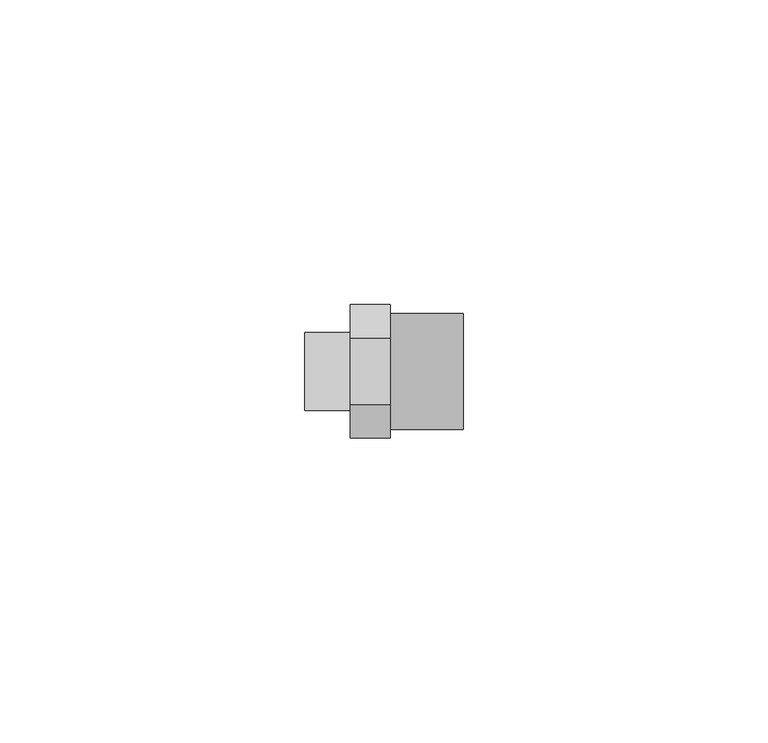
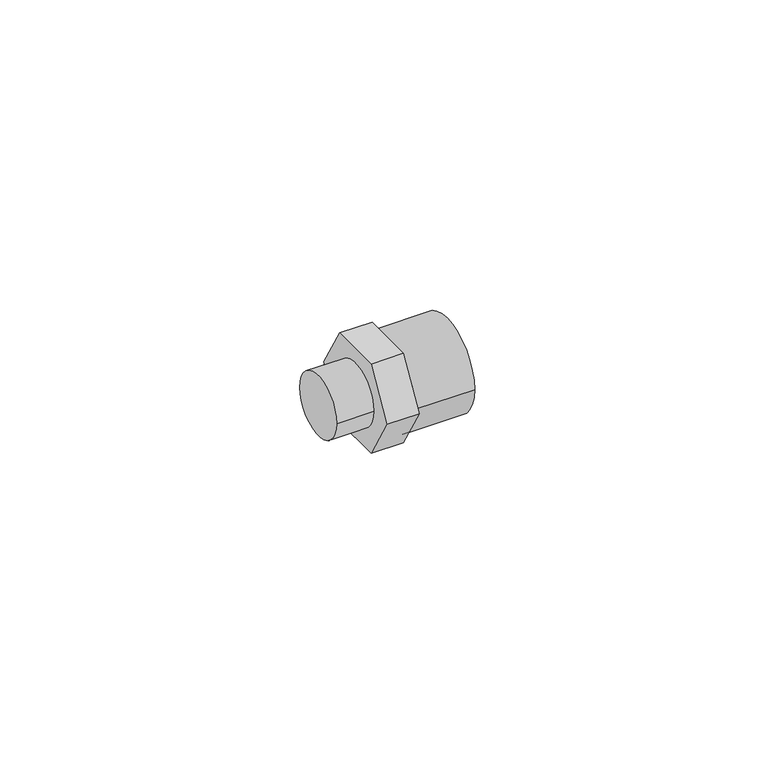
"""IFC4 building model written with IfcOpenShell, lengths in millimetres: pipe fitting geometry, 01011006 : Reducciones M/H."""

from ifc_helpers import new_model, si_unit, point, frame, origin, origin_2d, place, context, project, spatial, polyline, circle_curve, trimmed, segment, composite_curve, outline, extrude, source, transform, mapped, element, save


def pipe_fitting_46e06b33(model_context):
    return source(origin(), model_context, "Body", "SweptSolid", [
        extrude(outline(composite_curve([segment(trimmed(circle_curve(origin_2d(), 6.4), [point((6.4, 0.0))], [point((-6.4, 0.0))], False, "CARTESIAN"), True, "CONTINUOUS"), segment(trimmed(circle_curve(origin_2d(), 6.4), [point((-6.4, 0.0))], [point((6.4, 0.0))], False, "CARTESIAN"), True, "CONTINUOUS")], self_intersect=False)), frame((0.0, 0.0, 0.0), z_axis=(1.0, 0.0, 0.0), x_axis=(0.0, 1.0, 0.0)), (0.0, 0.0, 1.0), 7.5),
        extrude(outline(polyline([(-5.4848276, 9.5), (5.4848276, 9.5), (10.9696551, 0.0), (5.4848276, -9.5), (-5.4848276, -9.5), (-10.9696551, 0.0), (-5.4848276, 9.5)])), frame((7.5, 0.0, 0.0), z_axis=(1.0, 0.0, 0.0), x_axis=(0.0, 1.0, 0.0)), (0.0, 0.0, 1.0), 6.5),
        extrude(outline(composite_curve([segment(trimmed(circle_curve(origin_2d(), 9.5), [point((-9.5, 0.0))], [point((9.5, 0.0))], False, "CARTESIAN"), True, "CONTINUOUS"), segment(trimmed(circle_curve(origin_2d(), 9.5), [point((9.5, 0.0))], [point((-9.5, 0.0))], False, "CARTESIAN"), True, "CONTINUOUS")], self_intersect=False)), frame((14.0, 0.0, 0.0), z_axis=(1.0, 0.0, 0.0), x_axis=(0.0, 1.0, 0.0)), (0.0, 0.0, 1.0), 12.0),
    ])


if __name__ == "__main__":
    model = new_model("IFC4")
    model_context = context("Model", 3, world=origin())
    ifc_project = project(units=[si_unit("LENGTHUNIT", "METRE", prefix="MILLI")], contexts=[model_context])
    site = spatial("IfcSite", under=ifc_project)
    building = spatial("IfcBuilding", under=site)
    placement = place(None, origin())
    pipe_fitting_shape = pipe_fitting_46e06b33(model_context)
    element("IfcPipeFitting", 1, ObjectType="01011006 : Reducciones M/H", at=placement, inside=building, context=model_context, shape_type="MappedRepresentation", body=[
        mapped(pipe_fitting_shape, transform((0.0, 0.0, 0.0), x_axis=(1.0, 0.0, 0.0), y_axis=(0.0, 1.0, 0.0), z_axis=(0.0, 0.0, 1.0))),
    ])
    save(model, "model.ifc")
